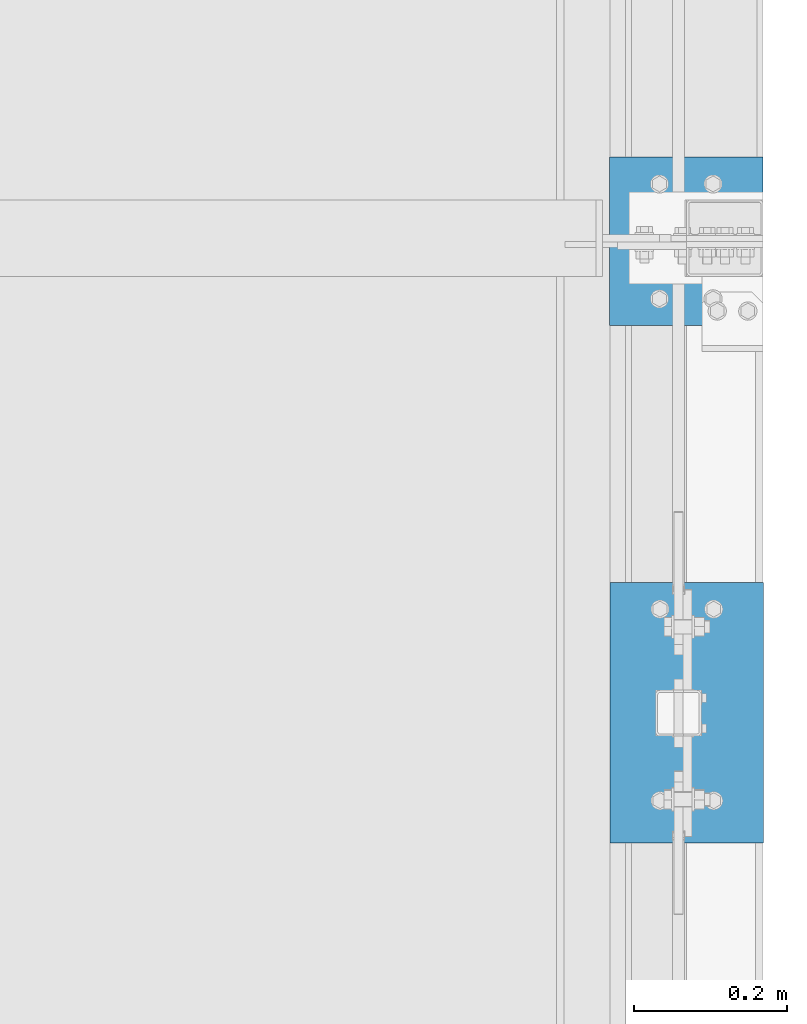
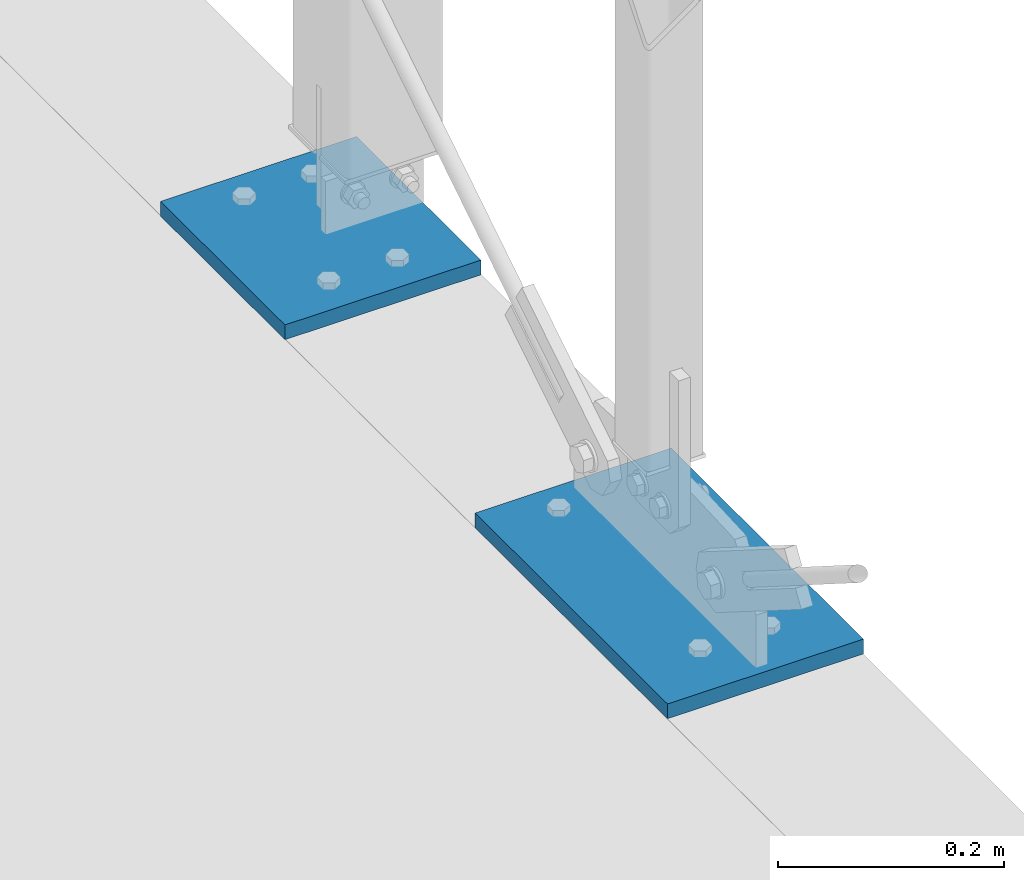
# One storey, part 85 of 271: 2 beams, 2 elements without a shape of their own.
"""IFC2X3 building model written with IfcOpenShell, lengths in millimetres."""

from ifc_helpers import new_model, si_unit, frame, origin_with_axes, origin_2d_with_axis, place, context, subcontext, project, spatial, rectangle, extrude, material, type_object, element, aggregate, save


model = new_model("IFC2X3")

# Units and contexts
model_context = context("Model", 3, precision=1e-05, world=origin_with_axes())
body_context = subcontext(model_context, "Body", "Model", "MODEL_VIEW")
ifc_project = project(units=[si_unit("LENGTHUNIT", "METRE", prefix="MILLI"), si_unit("AREAUNIT", "SQUARE_METRE"), si_unit("VOLUMEUNIT", "CUBIC_METRE"), si_unit("MASSUNIT", "GRAM", prefix="KILO"), si_unit("TIMEUNIT", "SECOND"), si_unit("PLANEANGLEUNIT", "RADIAN"), si_unit("SOLIDANGLEUNIT", "STERADIAN"), si_unit("THERMODYNAMICTEMPERATUREUNIT", "DEGREE_CELSIUS"), si_unit("LUMINOUSINTENSITYUNIT", "LUMEN")], contexts=[model_context])

# Site, building, storey
site_placement = place(None, origin_with_axes())
site = spatial("IfcSite", under=ifc_project, at=site_placement, Name="Undefined", CompositionType="ELEMENT")
building_placement = place(site_placement, origin_with_axes())
building = spatial("IfcBuilding", under=site, at=building_placement, Name="Undefined", CompositionType="ELEMENT")
storey_placement = place(building_placement, origin_with_axes())
storey = spatial("IfcBuildingStorey", under=building, at=storey_placement, Name="Undefined", CompositionType="ELEMENT", Elevation=0.0)

# Assembly, beam
assembly_1_placement = place(storey_placement, origin_with_axes())
assembly_1 = element("IfcElementAssembly", 1, at=assembly_1_placement, inside=storey, Name="BELKA", AssemblyPlace="NOTDEFINED", PredefinedType="RIGID_FRAME")
ifc_material = material(Name="STEEL/S355JR")
beam_type_1 = type_object("IfcBeamType", Name="PL220*16", PredefinedType="NOTDEFINED")
beam_1_placement = place(assembly_1_placement, frame((12508.0, 2795.0, -8.0), z_axis=(0.0, -1.0, 0.0), x_axis=(1.0, 0.0, 0.0)))
beam_1 = element("IfcBeam", 2, at=beam_1_placement, type_object=beam_type_1, material=ifc_material, Name="BELKA", ObjectType="PL220*16", context=body_context, shape_type="SweptSolid", body=[
    extrude(rectangle(XDim=16.0, YDim=220.0, at=origin_2d_with_axis()), frame((200.0, 0.0, 0.0), z_axis=(-1.0, 0.0, 1.38777878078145e-17), x_axis=(0.0, -1.0, 0.0)), (0.0, 0.0, 1.0), 200.0),
])
aggregate(assembly_1, [beam_1])

assembly_2_placement = place(storey_placement, origin_with_axes())
assembly_2 = element("IfcElementAssembly", 3, at=assembly_2_placement, inside=storey, Name="BELKA", AssemblyPlace="NOTDEFINED", PredefinedType="RIGID_FRAME")
beam_type_2 = type_object("IfcBeamType", Name="PL340*16", PredefinedType="NOTDEFINED")
beam_2_placement = place(assembly_2_placement, frame((12508.7513748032, 2180.0, -8.0), z_axis=(0.0, -1.0, 0.0), x_axis=(1.0, 0.0, 0.0)))
beam_2 = element("IfcBeam", 4, at=beam_2_placement, type_object=beam_type_2, material=ifc_material, Name="BELKA", ObjectType="PL340*16", context=body_context, shape_type="SweptSolid", body=[
    extrude(rectangle(XDim=16.0, YDim=340.0, at=origin_2d_with_axis()), frame((200.0, 0.0, 0.0), z_axis=(-1.0, 0.0, 1.38777878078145e-17), x_axis=(0.0, -1.0, 0.0)), (0.0, 0.0, 1.0), 200.0),
])
aggregate(assembly_2, [beam_2])

save(model, "model.ifc")
